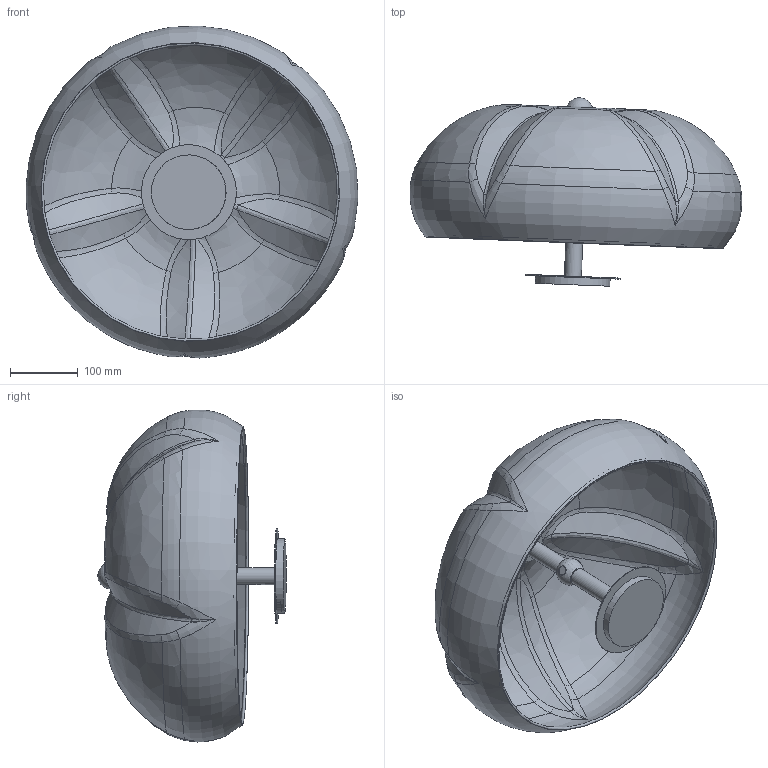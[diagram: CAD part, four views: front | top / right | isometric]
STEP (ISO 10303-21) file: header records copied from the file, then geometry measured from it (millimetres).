
FILE_DESCRIPTION(/* description */ (''),/* implementation_level */ '2;1');
FILE_NAME(/* name */ 'B674 Hana Ceiling Lamp.stp',/* time_stamp */ '2023-09-20T13:11:01+02:00',/* author */ ('Mariusz Awariusz'),/* organization */ (''),/* preprocessor_version */ 'ST-DEVELOPER v19.2',/* originating_system */ 'Autodesk Inventor 2024',/* authorisation */ '');
FILE_SCHEMA (('AUTOMOTIVE_DESIGN { 1 0 10303 214 3 1 1 }'));
Length unit declared in the file: centimetre
Products named in the file (1): Część2
Bounding box: 489.26 x 277.71 x 489.32 mm (x, y, z)
Volume: 1108100.2 mm3; surface area: 904865 mm2
Topology: 14 solids, 14 shells, 252 faces, 587 edges, 343 vertices
Faces by surface type: bspline 144, plane 47, cylinder 37, torus 14, cone 8, sphere 2
Full cylindrical faces by diameter (mm): 3 x1, 10 x1, 11.917 x1, 13.5 x3, 25 x2, 25.5 x2, 45 x4, 110 x1, 140 x1
Entity records: 12656 total; most frequent: CARTESIAN_POINT 7944, ORIENTED_EDGE 1126, DIRECTION 666, EDGE_CURVE 563, VERTEX_POINT 341, B_SPLINE_CURVE_WITH_KNOTS 290, AXIS2_PLACEMENT_3D 286, EDGE_LOOP 256
